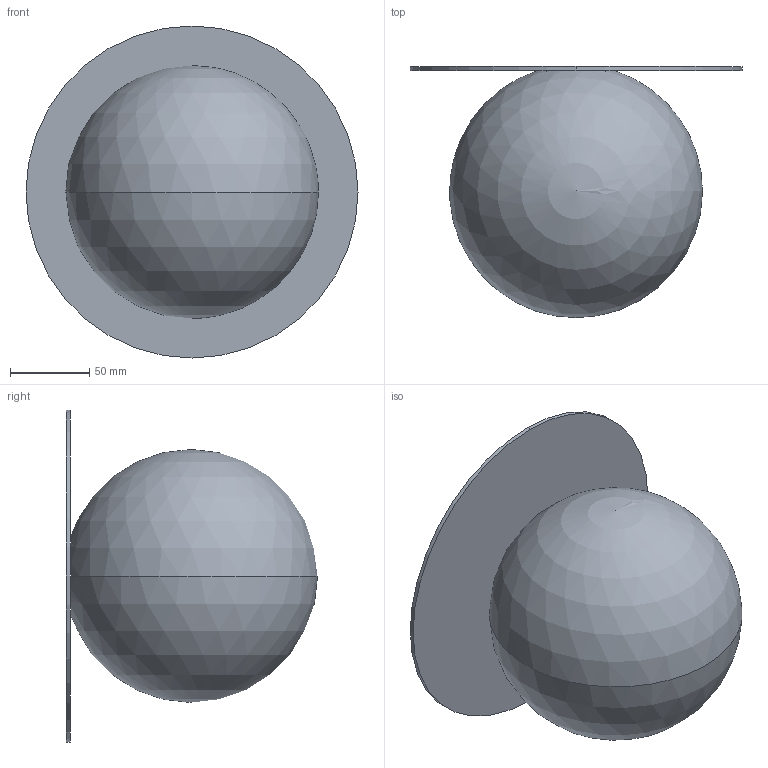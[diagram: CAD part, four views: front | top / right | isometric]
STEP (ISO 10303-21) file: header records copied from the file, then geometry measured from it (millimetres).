
FILE_DESCRIPTION (( 'STEP AP203' ), '1' );
FILE_NAME ('PLKI1601IXXXXXX-PER 3D.STEP', '2025-06-25T07:32:18', ( '' ), ( '' ), 'SwSTEP 2.0', 'SolidWorks 2024', '' );
FILE_SCHEMA (( 'CONFIG_CONTROL_DESIGN' ));
Length unit declared in the file: millimetre
Products named in the file (3): WSVAXXX0160BC7XX00; PLKI1601IXXXXXX-PER 3D; WSCM2C0200-0700-03_WSCM2C0200-0700-03
Assembly tree (2 placements, depth 2):
  PLKI1601IXXXXXX-PER 3D
    WSCM2C0200-0700-03_WSCM2C0200-0700-03
    WSVAXXX0160BC7XX00
Bounding box: 210 x 158.79 x 210 mm (x, y, z)
Volume: 312450.9 mm3; surface area: 222253.7 mm2
Topology: 2 solids, 2 shells, 36 faces, 96 edges, 60 vertices
Faces by surface type: cylinder 18, cone 8, plane 6, sphere 4
Entity records: 1387 total; most frequent: DIRECTION 216, CARTESIAN_POINT 181, ORIENTED_EDGE 172, AXIS2_PLACEMENT_3D 89, EDGE_CURVE 86, VERTEX_POINT 54, CIRCLE 48, EDGE_LOOP 48
